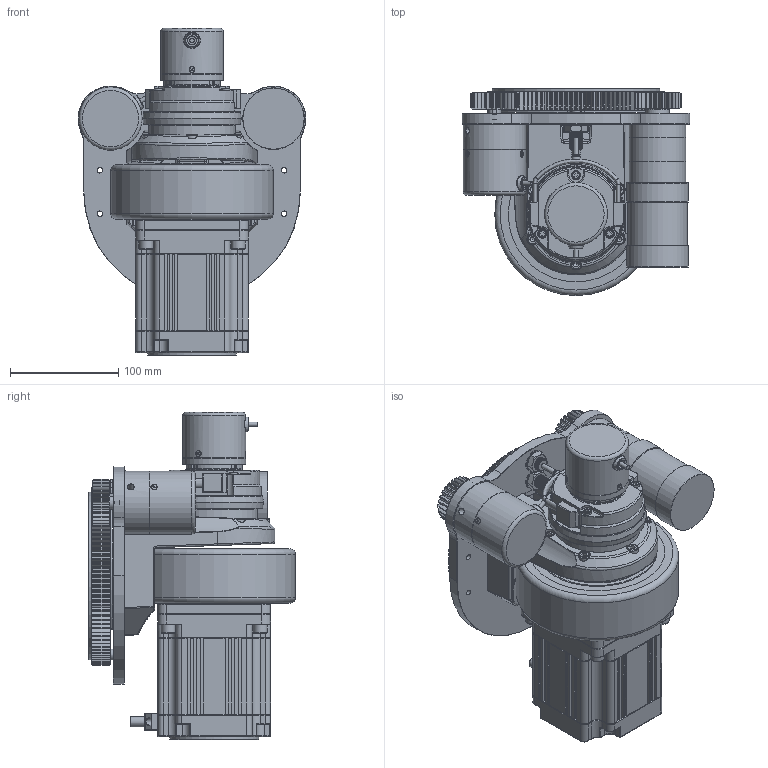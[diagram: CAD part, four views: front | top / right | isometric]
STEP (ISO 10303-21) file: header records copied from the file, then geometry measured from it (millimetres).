
FILE_DESCRIPTION (( 'STEP AP214' ), '1' );
FILE_NAME ('ZLW-190-7508-908.STEP', '2019-04-23T23:41:46', ( '' ), ( '' ), 'SwSTEP 2.0', 'SolidWorks 2016', '' );
FILE_SCHEMA (( 'AUTOMOTIVE_DESIGN' ));
Length unit declared in the file: millimetre
Products named in the file (1): ZLW-190-7508-908
Bounding box: 210.4 x 191 x 302 mm (x, y, z)
Surface area: 436737.2 mm2 (no closed solid volume)
Topology: 0 solids, 121 shells, 2092 faces, 6474 edges, 4403 vertices
Faces by surface type: cylinder 987, plane 604, cone 333, bspline 93, torus 67, sphere 8
Full cylindrical faces by diameter (mm): 1.5 x2, 3 x2, 3.3 x1, 4 x6, 4.5 x2, 4.7 x4, 5 x18, 5.1 x1, 5.54 x5, 6 x6, 6.5 x1, 7 x3, 7.53 x1, 8 x3, 8.5 x5, 9 x8, 9.5 x1, 10 x5, 11 x14, 12 x2, 13 x4, 16 x1, 20 x1, 22 x1, 24.8 x1, 25 x1, 38 x1, 52 x4, 54 x1, 55 x2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
Entity records: 108869 total; most frequent: CARTESIAN_POINT 31122, DIRECTION 11737, ORIENTED_EDGE 9999, EDGE_CURVE 6139, AXIS2_PLACEMENT_3D 4611, VERTEX_POINT 4335, CIRCLE 2611, EDGE_LOOP 2559
